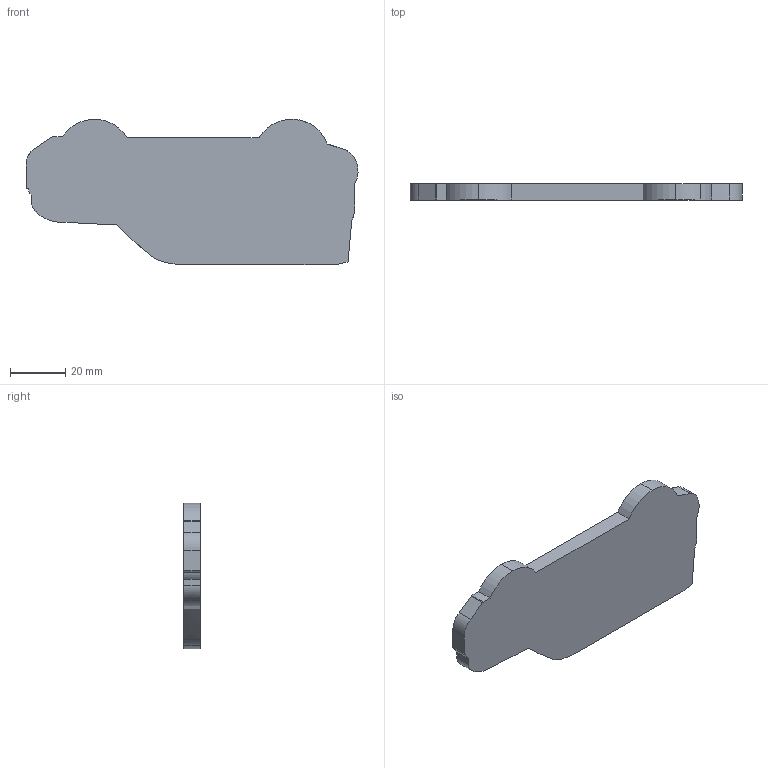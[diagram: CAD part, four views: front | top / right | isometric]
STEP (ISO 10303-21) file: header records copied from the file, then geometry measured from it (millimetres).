
FILE_DESCRIPTION (( 'STEP AP203' ), '1' );
FILE_NAME ('SUV COOKIE CUTTER.STEP', '2025-11-17T17:01:17', ( '' ), ( '' ), 'SwSTEP 2.0', 'SolidWorks 2024', '' );
FILE_SCHEMA (( 'CONFIG_CONTROL_DESIGN' ));
Length unit declared in the file: millimetre
Products named in the file (1): SUV COOKIE CUTTER
Bounding box: 120.23 x 5.88 x 52.67 mm (x, y, z)
Volume: 10529.4 mm3; surface area: 19006.2 mm2
Topology: 1 solids, 1 shells, 368 faces, 1002 edges, 668 vertices
Faces by surface type: plane 203, bspline 158, cylinder 7
Entity records: 13870 total; most frequent: CARTESIAN_POINT 5586, ORIENTED_EDGE 2004, DIRECTION 1103, EDGE_CURVE 1002, VERTEX_POINT 668, LINE 667, VECTOR 667, EDGE_LOOP 404
